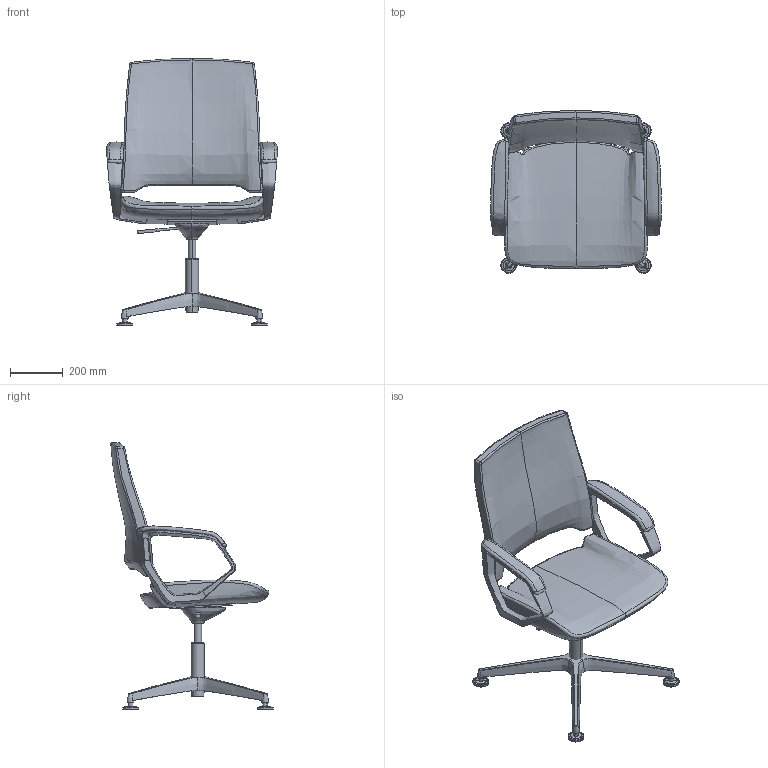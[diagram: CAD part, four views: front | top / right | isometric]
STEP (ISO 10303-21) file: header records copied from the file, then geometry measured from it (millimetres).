
FILE_DESCRIPTION(/* description */ (''),/* implementation_level */ '2;1');
FILE_NAME(/* name */ 'TE5BFD~1',/* time_stamp */ '2017-02-22T10:28:27+01:00',/* author */ (''),/* organization */ (''),/* preprocessor_version */ 'ST-DEVELOPER v15',/* originating_system */ '',/* authorisation */ '');
FILE_SCHEMA (('CONFIG_CONTROL_DESIGN'));
Length unit declared in the file: millimetre
Products named in the file (1): Document
Bounding box: 645.33 x 613.54 x 1009.77 mm (x, y, z)
Volume: 17303813.5 mm3; surface area: 1881186.8 mm2
Topology: 9 solids, 23 shells, 236 faces, 547 edges, 329 vertices
Faces by surface type: bspline 217, plane 19
Entity records: 24114 total; most frequent: CARTESIAN_POINT 20844, ORIENTED_EDGE 1032, EDGE_CURVE 544, B_SPLINE_CURVE_WITH_KNOTS 333, VERTEX_POINT 323, EDGE_LOOP 240, ADVANCED_FACE 236, FACE_OUTER_BOUND 236
